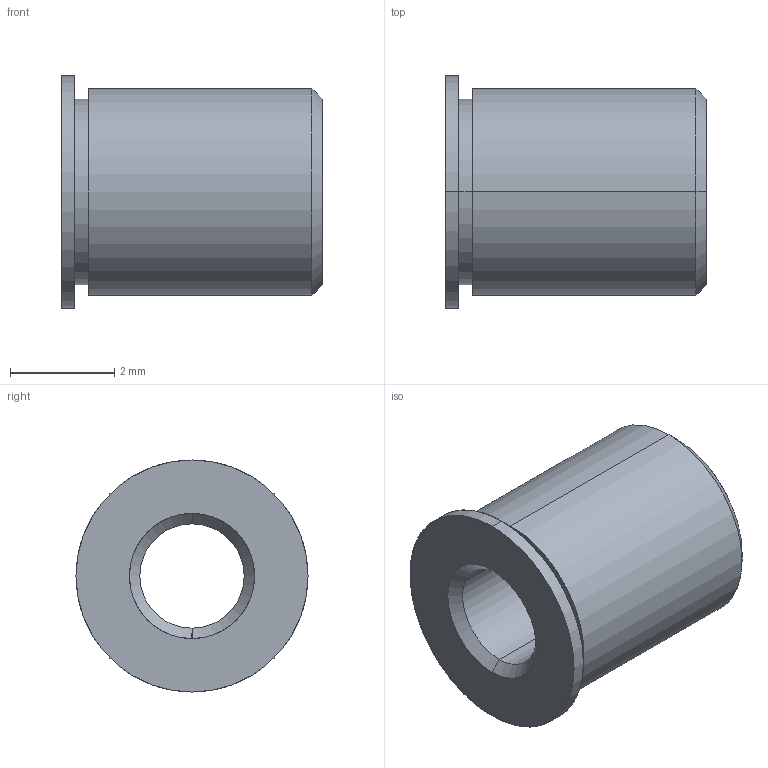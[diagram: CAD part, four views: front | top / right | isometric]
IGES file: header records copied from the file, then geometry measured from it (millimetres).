
Start section: SolidWorks IGES file using analytic representation for surfaces
Global section: file name: C:\Users\workpc\Desktop\KMA Solidworks\Metric Bushings\Metric Bushings IGES\TB2-20-05.IGS; native system: SolidWorks 2013; preprocessor: SolidWorks 2013; author: workpc; date: 140904.083502; units: millimetre
Bounding box: 5 x 4.45 x 4.45 mm (x, y, z)
Surface area: 120.4 mm2 (no closed solid volume)
Topology: 0 solids, 0 shells, 18 faces, 312 edges, 312 vertices
Faces by surface type: revolution 14, bspline 4
